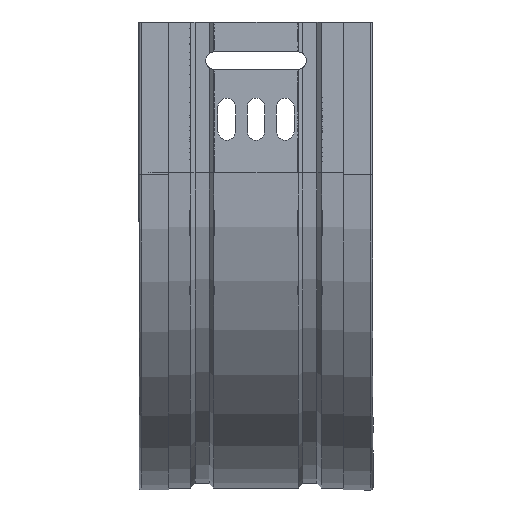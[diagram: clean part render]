
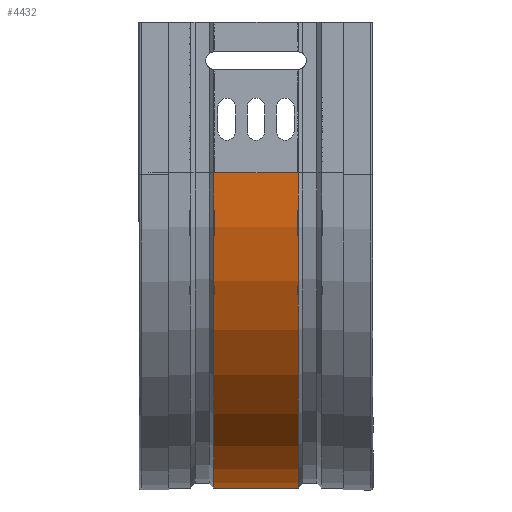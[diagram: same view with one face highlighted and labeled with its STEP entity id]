
A CAD part, front view. The second image highlights one B-rep face of the part: STEP entity #4432.
In plain terms, the highlighted cylindrical face has radius 134.8 mm (diameter 269.6 mm), a partial arc.
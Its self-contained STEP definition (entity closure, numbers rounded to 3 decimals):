
#459 = DIRECTION ( 'NONE',  ( 1., 0., 0. ) ) ;
#511 = ORIENTED_EDGE ( 'NONE', *, *, #2401, .T. ) ;
#593 = AXIS2_PLACEMENT_3D ( 'NONE', #2055, #2800, #2359 ) ;
#604 = EDGE_LOOP ( 'NONE', ( #1443, #511, #5019, #1395 ) ) ;
#615 = DIRECTION ( 'NONE',  ( 1., 0., 0. ) ) ;
#653 = VERTEX_POINT ( 'NONE', #2886 ) ;
#660 = FACE_OUTER_BOUND ( 'NONE', #604, .T. ) ;
#935 = EDGE_CURVE ( 'NONE', #2623, #653, #2807, .T. ) ;
#1274 = DIRECTION ( 'NONE',  ( 1., 0., 0. ) ) ;
#1395 = ORIENTED_EDGE ( 'NONE', *, *, #935, .F. ) ;
#1443 = ORIENTED_EDGE ( 'NONE', *, *, #5061, .F. ) ;
#1602 = CARTESIAN_POINT ( 'NONE',  ( -31., -0.8, -64.4 ) ) ;
#1625 = VECTOR ( 'NONE', #1274, 1000. ) ;
#1863 = VECTOR ( 'NONE', #459, 1000. ) ;
#1963 = LINE ( 'NONE', #3177, #1625 ) ;
#1997 = CARTESIAN_POINT ( 'NONE',  ( -31., 134., -199.2 ) ) ;
#2055 = CARTESIAN_POINT ( 'NONE',  ( -31., 134., -64.4 ) ) ;
#2102 = VERTEX_POINT ( 'NONE', #2723 ) ;
#2359 = DIRECTION ( 'NONE',  ( 0., 0., -1. ) ) ;
#2401 = EDGE_CURVE ( 'NONE', #2102, #5107, #4817, .T. ) ;
#2519 = AXIS2_PLACEMENT_3D ( 'NONE', #4155, #615, #2543 ) ;
#2543 = DIRECTION ( 'NONE',  ( 0., 0., -1. ) ) ;
#2544 = DIRECTION ( 'NONE',  ( 1., 0., 0. ) ) ;
#2615 = DIRECTION ( 'NONE',  ( 0., 0., -1. ) ) ;
#2623 = VERTEX_POINT ( 'NONE', #1602 ) ;
#2723 = CARTESIAN_POINT ( 'NONE',  ( -67., -0.8, -64.4 ) ) ;
#2800 = DIRECTION ( 'NONE',  ( 1., 0., 0. ) ) ;
#2807 = CIRCLE ( 'NONE', #593, 134.8 ) ;
#2886 = CARTESIAN_POINT ( 'NONE',  ( -31., 134., -199.2 ) ) ;
#3177 = CARTESIAN_POINT ( 'NONE',  ( -31., -0.8, -64.4 ) ) ;
#3960 = LINE ( 'NONE', #1997, #1863 ) ;
#4155 = CARTESIAN_POINT ( 'NONE',  ( 0., 134., -64.4 ) ) ;
#4228 = AXIS2_PLACEMENT_3D ( 'NONE', #4521, #2544, #2615 ) ;
#4432 = ADVANCED_FACE ( 'NONE', ( #660 ), #4520, .T. ) ;
#4520 = CYLINDRICAL_SURFACE ( 'NONE', #2519, 134.8 ) ;
#4521 = CARTESIAN_POINT ( 'NONE',  ( -67., 134., -64.4 ) ) ;
#4653 = EDGE_CURVE ( 'NONE', #5107, #653, #3960, .T. ) ;
#4817 = CIRCLE ( 'NONE', #4228, 134.8 ) ;
#4846 = CARTESIAN_POINT ( 'NONE',  ( -67., 134., -199.2 ) ) ;
#5019 = ORIENTED_EDGE ( 'NONE', *, *, #4653, .T. ) ;
#5061 = EDGE_CURVE ( 'NONE', #2102, #2623, #1963, .T. ) ;
#5107 = VERTEX_POINT ( 'NONE', #4846 ) ;
